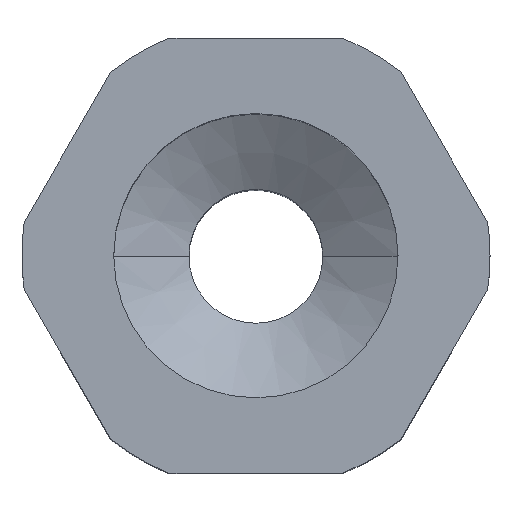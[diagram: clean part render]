
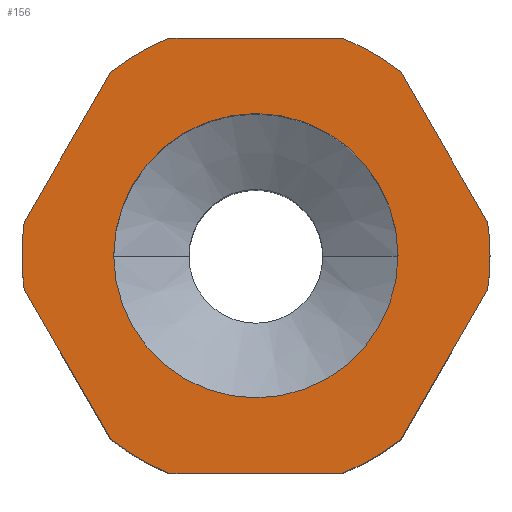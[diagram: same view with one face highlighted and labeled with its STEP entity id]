
A CAD part, top view. The second image highlights one B-rep face of the part: STEP entity #156.
In plain terms, the highlighted planar face has unit normal (0, 0, 1).
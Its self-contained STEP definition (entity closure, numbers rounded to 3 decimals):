
#4 = DIRECTION ( 'NONE',  ( 0., 0., 1. ) ) ;
#10 = EDGE_LOOP ( 'NONE', ( #682, #923, #975, #151, #328, #937, #265, #728, #900, #1071, #1066, #431, #565 ) ) ;
#30 = CARTESIAN_POINT ( 'NONE',  ( -2.598, -6.5, 0. ) ) ;
#46 = DIRECTION ( 'NONE',  ( 1., 0., 0. ) ) ;
#53 = CIRCLE ( 'NONE', #240, 4.25 ) ;
#64 = CARTESIAN_POINT ( 'NONE',  ( 0., -6.5, 0. ) ) ;
#70 = VECTOR ( 'NONE', #895, 1000. ) ;
#72 = VERTEX_POINT ( 'NONE', #1075 ) ;
#77 = CARTESIAN_POINT ( 'NONE',  ( 4.33, -5.5, 0. ) ) ;
#86 = CARTESIAN_POINT ( 'NONE',  ( 0., 0., 0. ) ) ;
#105 = VERTEX_POINT ( 'NONE', #1068 ) ;
#106 = CIRCLE ( 'NONE', #615, 7. ) ;
#110 = AXIS2_PLACEMENT_3D ( 'NONE', #970, #353, #885 ) ;
#111 = EDGE_CURVE ( 'NONE', #253, #364, #119, .T. ) ;
#119 = CIRCLE ( 'NONE', #1015, 7. ) ;
#122 = DIRECTION ( 'NONE',  ( 1., 0., 0. ) ) ;
#128 = AXIS2_PLACEMENT_3D ( 'NONE', #290, #544, #375 ) ;
#132 = CARTESIAN_POINT ( 'NONE',  ( 0., 0., 0. ) ) ;
#138 = CIRCLE ( 'NONE', #785, 7. ) ;
#140 = CARTESIAN_POINT ( 'NONE',  ( -4.25, 0., 0. ) ) ;
#151 = ORIENTED_EDGE ( 'NONE', *, *, #344, .T. ) ;
#155 = EDGE_CURVE ( 'NONE', #1134, #643, #53, .T. ) ;
#156 = ADVANCED_FACE ( 'NONE', ( #401, #200 ), #646, .T. ) ;
#166 = VECTOR ( 'NONE', #46, 1000. ) ;
#172 = CARTESIAN_POINT ( 'NONE',  ( 4.33, 5.5, 0. ) ) ;
#180 = VECTOR ( 'NONE', #359, 1000. ) ;
#181 = DIRECTION ( 'NONE',  ( 1., 0., 0. ) ) ;
#185 = LINE ( 'NONE', #845, #1094 ) ;
#200 = FACE_BOUND ( 'NONE', #279, .T. ) ;
#206 = CIRCLE ( 'NONE', #110, 7. ) ;
#217 = VERTEX_POINT ( 'NONE', #30 ) ;
#218 = DIRECTION ( 'NONE',  ( 1., 0., 0. ) ) ;
#224 = AXIS2_PLACEMENT_3D ( 'NONE', #898, #276, #813 ) ;
#228 = CIRCLE ( 'NONE', #896, 7. ) ;
#236 = AXIS2_PLACEMENT_3D ( 'NONE', #86, #701, #181 ) ;
#237 = CARTESIAN_POINT ( 'NONE',  ( -6.928, -1., 0. ) ) ;
#240 = AXIS2_PLACEMENT_3D ( 'NONE', #825, #997, #122 ) ;
#252 = EDGE_CURVE ( 'NONE', #650, #480, #138, .T. ) ;
#253 = VERTEX_POINT ( 'NONE', #992 ) ;
#265 = ORIENTED_EDGE ( 'NONE', *, *, #905, .T. ) ;
#274 = VECTOR ( 'NONE', #724, 1000. ) ;
#276 = DIRECTION ( 'NONE',  ( 0., 0., -1. ) ) ;
#279 = EDGE_LOOP ( 'NONE', ( #450, #534 ) ) ;
#283 = DIRECTION ( 'NONE',  ( 1., 0., 0. ) ) ;
#289 = EDGE_CURVE ( 'NONE', #643, #1134, #348, .T. ) ;
#290 = CARTESIAN_POINT ( 'NONE',  ( 0., 0., 0. ) ) ;
#306 = LINE ( 'NONE', #449, #274 ) ;
#323 = DIRECTION ( 'NONE',  ( 0.5, -0.866, 0. ) ) ;
#327 = DIRECTION ( 'NONE',  ( 1., 0., 0. ) ) ;
#328 = ORIENTED_EDGE ( 'NONE', *, *, #769, .F. ) ;
#344 = EDGE_CURVE ( 'NONE', #480, #105, #1089, .T. ) ;
#345 = VECTOR ( 'NONE', #323, 1000. ) ;
#348 = CIRCLE ( 'NONE', #224, 4.25 ) ;
#353 = DIRECTION ( 'NONE',  ( 0., 0., 1. ) ) ;
#359 = DIRECTION ( 'NONE',  ( 0.5, 0.866, 0. ) ) ;
#361 = CARTESIAN_POINT ( 'NONE',  ( 6.928, 1., 0. ) ) ;
#363 = CARTESIAN_POINT ( 'NONE',  ( 4.33, -5.5, 0. ) ) ;
#364 = VERTEX_POINT ( 'NONE', #530 ) ;
#369 = EDGE_CURVE ( 'NONE', #751, #920, #228, .T. ) ;
#373 = CARTESIAN_POINT ( 'NONE',  ( 0., 0., 0. ) ) ;
#375 = DIRECTION ( 'NONE',  ( 1., 0., 0. ) ) ;
#384 = EDGE_CURVE ( 'NONE', #72, #492, #206, .T. ) ;
#385 = DIRECTION ( 'NONE',  ( 1., 0., 0. ) ) ;
#398 = DIRECTION ( 'NONE',  ( -1., 0., 0. ) ) ;
#401 = FACE_OUTER_BOUND ( 'NONE', #10, .T. ) ;
#418 = CARTESIAN_POINT ( 'NONE',  ( 0., 0., 0. ) ) ;
#431 = ORIENTED_EDGE ( 'NONE', *, *, #384, .T. ) ;
#433 = AXIS2_PLACEMENT_3D ( 'NONE', #132, #750, #218 ) ;
#449 = CARTESIAN_POINT ( 'NONE',  ( -4.33, 5.5, 0. ) ) ;
#450 = ORIENTED_EDGE ( 'NONE', *, *, #289, .T. ) ;
#480 = VERTEX_POINT ( 'NONE', #77 ) ;
#492 = VERTEX_POINT ( 'NONE', #690 ) ;
#509 = EDGE_CURVE ( 'NONE', #1133, #576, #106, .T. ) ;
#525 = DIRECTION ( 'NONE',  ( 1., 0., 0. ) ) ;
#530 = CARTESIAN_POINT ( 'NONE',  ( -4.33, 5.5, 0. ) ) ;
#534 = ORIENTED_EDGE ( 'NONE', *, *, #155, .T. ) ;
#540 = EDGE_CURVE ( 'NONE', #217, #650, #567, .T. ) ;
#544 = DIRECTION ( 'NONE',  ( 0., 0., 1. ) ) ;
#558 = CARTESIAN_POINT ( 'NONE',  ( 0., 0., 0. ) ) ;
#559 = CIRCLE ( 'NONE', #433, 7. ) ;
#565 = ORIENTED_EDGE ( 'NONE', *, *, #645, .T. ) ;
#567 = LINE ( 'NONE', #64, #166 ) ;
#576 = VERTEX_POINT ( 'NONE', #680 ) ;
#586 = CARTESIAN_POINT ( 'NONE',  ( 4.25, 0., 0. ) ) ;
#615 = AXIS2_PLACEMENT_3D ( 'NONE', #418, #944, #327 ) ;
#623 = CARTESIAN_POINT ( 'NONE',  ( 0., 0., 0. ) ) ;
#643 = VERTEX_POINT ( 'NONE', #586 ) ;
#645 = EDGE_CURVE ( 'NONE', #492, #656, #652, .T. ) ;
#646 = PLANE ( 'NONE',  #128 ) ;
#650 = VERTEX_POINT ( 'NONE', #772 ) ;
#652 = LINE ( 'NONE', #237, #345 ) ;
#656 = VERTEX_POINT ( 'NONE', #936 ) ;
#660 = CARTESIAN_POINT ( 'NONE',  ( 6.928, 1., 0. ) ) ;
#680 = CARTESIAN_POINT ( 'NONE',  ( 7., 0., 0. ) ) ;
#682 = ORIENTED_EDGE ( 'NONE', *, *, #1086, .T. ) ;
#690 = CARTESIAN_POINT ( 'NONE',  ( -6.928, -1., 0. ) ) ;
#701 = DIRECTION ( 'NONE',  ( 0., 0., -1. ) ) ;
#724 = DIRECTION ( 'NONE',  ( -0.5, -0.866, 0. ) ) ;
#728 = ORIENTED_EDGE ( 'NONE', *, *, #369, .T. ) ;
#750 = DIRECTION ( 'NONE',  ( 0., 0., 1. ) ) ;
#751 = VERTEX_POINT ( 'NONE', #172 ) ;
#769 = EDGE_CURVE ( 'NONE', #576, #105, #998, .T. ) ;
#772 = CARTESIAN_POINT ( 'NONE',  ( 2.598, -6.5, 0. ) ) ;
#785 = AXIS2_PLACEMENT_3D ( 'NONE', #373, #902, #283 ) ;
#813 = DIRECTION ( 'NONE',  ( 1., 0., 0. ) ) ;
#825 = CARTESIAN_POINT ( 'NONE',  ( 0., 0., 0. ) ) ;
#845 = CARTESIAN_POINT ( 'NONE',  ( 0., 6.5, 0. ) ) ;
#885 = DIRECTION ( 'NONE',  ( 1., 0., 0. ) ) ;
#895 = DIRECTION ( 'NONE',  ( -0.5, 0.866, 0. ) ) ;
#896 = AXIS2_PLACEMENT_3D ( 'NONE', #623, #4, #525 ) ;
#898 = CARTESIAN_POINT ( 'NONE',  ( 0., 0., 0. ) ) ;
#900 = ORIENTED_EDGE ( 'NONE', *, *, #1137, .T. ) ;
#902 = DIRECTION ( 'NONE',  ( 0., 0., 1. ) ) ;
#905 = EDGE_CURVE ( 'NONE', #1133, #751, #1010, .T. ) ;
#920 = VERTEX_POINT ( 'NONE', #978 ) ;
#923 = ORIENTED_EDGE ( 'NONE', *, *, #540, .T. ) ;
#933 = EDGE_CURVE ( 'NONE', #364, #72, #306, .T. ) ;
#936 = CARTESIAN_POINT ( 'NONE',  ( -4.33, -5.5, 0. ) ) ;
#937 = ORIENTED_EDGE ( 'NONE', *, *, #509, .F. ) ;
#944 = DIRECTION ( 'NONE',  ( 0., 0., -1. ) ) ;
#970 = CARTESIAN_POINT ( 'NONE',  ( 0., 0., 0. ) ) ;
#975 = ORIENTED_EDGE ( 'NONE', *, *, #252, .T. ) ;
#978 = CARTESIAN_POINT ( 'NONE',  ( 2.598, 6.5, 0. ) ) ;
#992 = CARTESIAN_POINT ( 'NONE',  ( -2.598, 6.5, 0. ) ) ;
#997 = DIRECTION ( 'NONE',  ( 0., 0., -1. ) ) ;
#998 = CIRCLE ( 'NONE', #236, 7. ) ;
#1004 = DIRECTION ( 'NONE',  ( 0., 0., 1. ) ) ;
#1010 = LINE ( 'NONE', #361, #70 ) ;
#1015 = AXIS2_PLACEMENT_3D ( 'NONE', #558, #1004, #385 ) ;
#1066 = ORIENTED_EDGE ( 'NONE', *, *, #933, .T. ) ;
#1068 = CARTESIAN_POINT ( 'NONE',  ( 6.928, -1., 0. ) ) ;
#1071 = ORIENTED_EDGE ( 'NONE', *, *, #111, .T. ) ;
#1075 = CARTESIAN_POINT ( 'NONE',  ( -6.928, 1., 0. ) ) ;
#1086 = EDGE_CURVE ( 'NONE', #656, #217, #559, .T. ) ;
#1089 = LINE ( 'NONE', #363, #180 ) ;
#1094 = VECTOR ( 'NONE', #398, 1000. ) ;
#1133 = VERTEX_POINT ( 'NONE', #660 ) ;
#1134 = VERTEX_POINT ( 'NONE', #140 ) ;
#1137 = EDGE_CURVE ( 'NONE', #920, #253, #185, .T. ) ;
